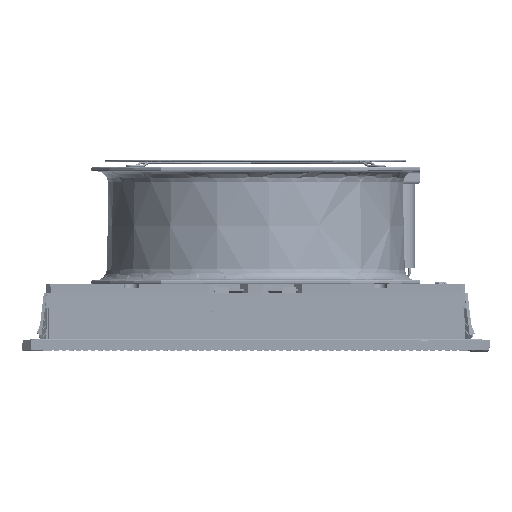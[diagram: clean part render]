
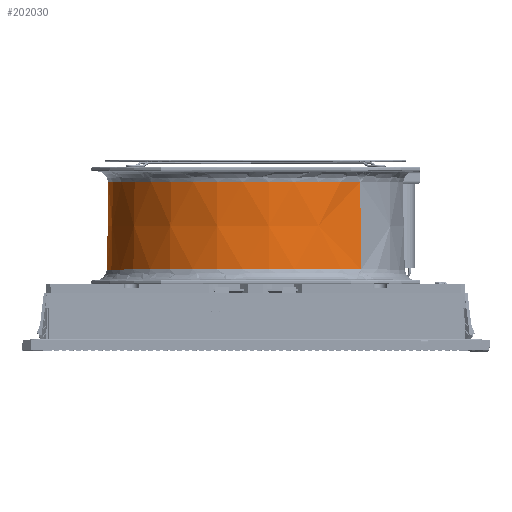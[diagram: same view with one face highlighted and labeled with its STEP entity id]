
A CAD part, top view. The second image highlights one B-rep face of the part: STEP entity #202030.
In plain terms, the highlighted conical face has half-angle 1 degrees and reference radius 102.245 mm.
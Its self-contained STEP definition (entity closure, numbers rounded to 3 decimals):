
#13453 = VECTOR ( 'NONE', #151701, 1000. ) ;
#16151 = VECTOR ( 'NONE', #79516, 1000. ) ;
#16190 = AXIS2_PLACEMENT_3D ( 'NONE', #22201, #69242, #236554 ) ;
#22201 = CARTESIAN_POINT ( 'NONE',  ( 0., -60.031, 0. ) ) ;
#49611 = DIRECTION ( 'NONE',  ( 0., 1., 0. ) ) ;
#69242 = DIRECTION ( 'NONE',  ( 0., -1., 0. ) ) ;
#79516 = DIRECTION ( 'NONE',  ( 0., -1., -0.017 ) ) ;
#79604 = CARTESIAN_POINT ( 'NONE',  ( 0., -60.031, 102.245 ) ) ;
#80828 = VERTEX_POINT ( 'NONE', #107984 ) ;
#84500 = CARTESIAN_POINT ( 'NONE',  ( 0., -0.231, 0. ) ) ;
#101280 = VERTEX_POINT ( 'NONE', #218981 ) ;
#107984 = CARTESIAN_POINT ( 'NONE',  ( 0., -60.031, -102.245 ) ) ;
#108555 = DIRECTION ( 'NONE',  ( 0., 0., 1. ) ) ;
#109018 = ORIENTED_EDGE ( 'NONE', *, *, #304980, .T. ) ;
#111769 = EDGE_CURVE ( 'NONE', #225404, #80828, #199412, .T. ) ;
#128644 = CARTESIAN_POINT ( 'NONE',  ( 0., -60.031, -102.245 ) ) ;
#132074 = CARTESIAN_POINT ( 'NONE',  ( 0., -0.231, 101.201 ) ) ;
#143647 = CIRCLE ( 'NONE', #235520, 102.245 ) ;
#151701 = DIRECTION ( 'NONE',  ( 0., -1., 0.017 ) ) ;
#173979 = ORIENTED_EDGE ( 'NONE', *, *, #195418, .T. ) ;
#190002 = CIRCLE ( 'NONE', #288109, 101.201 ) ;
#192786 = CARTESIAN_POINT ( 'NONE',  ( 0., -60.031, 0. ) ) ;
#195418 = EDGE_CURVE ( 'NONE', #101280, #80828, #143647, .T. ) ;
#199412 = LINE ( 'NONE', #128644, #16151 ) ;
#199880 = VERTEX_POINT ( 'NONE', #132074 ) ;
#202030 = ADVANCED_FACE ( 'NONE', ( #239417 ), #224344, .T. ) ;
#204240 = LINE ( 'NONE', #79604, #13453 ) ;
#216863 = DIRECTION ( 'NONE',  ( 0., 0., 1. ) ) ;
#218981 = CARTESIAN_POINT ( 'NONE',  ( 0., -60.031, 102.245 ) ) ;
#224344 = CONICAL_SURFACE ( 'NONE', #16190, 102.245, 0.017 ) ;
#225404 = VERTEX_POINT ( 'NONE', #285931 ) ;
#235520 = AXIS2_PLACEMENT_3D ( 'NONE', #192786, #49611, #216863 ) ;
#236554 = DIRECTION ( 'NONE',  ( 0., 0., -1. ) ) ;
#239417 = FACE_OUTER_BOUND ( 'NONE', #251580, .T. ) ;
#239666 = ORIENTED_EDGE ( 'NONE', *, *, #263347, .T. ) ;
#251580 = EDGE_LOOP ( 'NONE', ( #109018, #239666, #173979, #288498 ) ) ;
#251930 = DIRECTION ( 'NONE',  ( 0., -1., 0. ) ) ;
#263347 = EDGE_CURVE ( 'NONE', #199880, #101280, #204240, .T. ) ;
#285931 = CARTESIAN_POINT ( 'NONE',  ( 0., -0.231, -101.201 ) ) ;
#288109 = AXIS2_PLACEMENT_3D ( 'NONE', #84500, #251930, #108555 ) ;
#288498 = ORIENTED_EDGE ( 'NONE', *, *, #111769, .F. ) ;
#304980 = EDGE_CURVE ( 'NONE', #225404, #199880, #190002, .T. ) ;
